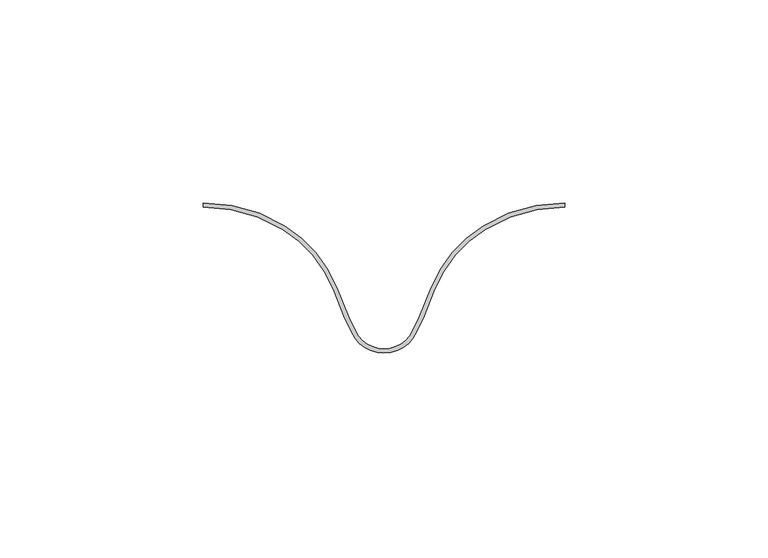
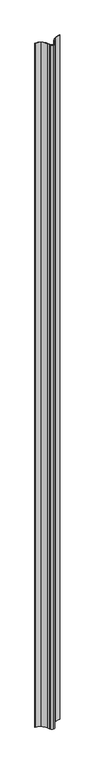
"""IFC4 building model written with IfcOpenShell, lengths in millimetres: plate geometry, Regolare Couverture 89  : Regolare Couverture 89 ."""

from ifc_helpers import new_model, si_unit, point, frame_2d, origin, origin_with_axes, place, context, project, spatial, polyline, circle_curve, trimmed, segment, composite_curve, outline, extrude, source, transform, mapped, element, save


def plate_1829d114(model_context):
    return source(origin(), model_context, "Body", "SweptSolid", [
        extrude(outline(composite_curve([segment(trimmed(circle_curve(frame_2d((-44.5257445, -1.5098563)), 37.4503244), [point((-24.9849944, 30.4383187))], [point((-44.5257445, 35.9404682))], True, "CARTESIAN"), True, "CONTINUOUS"), segment(polyline([(-44.5257445, 35.9404682), (-44.5257445, 36.9404682)]), True, "CONTINUOUS"), segment(trimmed(circle_curve(frame_2d((-44.5257445, -1.5098563)), 38.4503244), [point((-44.5257445, 36.9404682))], [point((-24.4632165, 31.2914001))], False, "CARTESIAN"), True, "CONTINUOUS"), segment(trimmed(circle_curve(frame_2d((-40.9600993, 4.3198001)), 31.6166783), [point((-24.4632165, 31.2914001))], [point((-11.6046151, 16.0616012))], False, "CARTESIAN"), True, "CONTINUOUS"), segment(polyline([(-11.6046151, 16.0616012), (-8.7353934, 8.8980757), (-7.0890396, 5.4633665)]), True, "CONTINUOUS"), segment(trimmed(circle_curve(frame_2d((0.0, 8.8613445)), 7.8613445), [point((-7.0890396, 5.4633665))], [point((0.0, 1.0))], True, "CARTESIAN"), True, "CONTINUOUS"), segment(trimmed(circle_curve(frame_2d((0.0, 8.8613445)), 7.8613445), [point((0.0, 1.0))], [point((7.0890396, 5.4633665))], True, "CARTESIAN"), True, "CONTINUOUS"), segment(polyline([(7.0890396, 5.4633665), (8.7353934, 8.8980757), (11.6046151, 16.0616012)]), True, "CONTINUOUS"), segment(trimmed(circle_curve(frame_2d((40.9600993, 4.3198001)), 31.6166783), [point((11.6046151, 16.0616012))], [point((24.4632165, 31.2914001))], False, "CARTESIAN"), True, "CONTINUOUS"), segment(trimmed(circle_curve(frame_2d((44.5257445, -1.5098563)), 38.4503244), [point((24.4632165, 31.2914001))], [point((44.5257445, 36.9404682))], False, "CARTESIAN"), True, "CONTINUOUS"), segment(polyline([(44.5257445, 36.9404682), (44.5257445, 35.9404682)]), True, "CONTINUOUS"), segment(trimmed(circle_curve(frame_2d((44.5257445, -1.5098563)), 37.4503244), [point((44.5257445, 35.9404682))], [point((24.9849944, 30.4383187))], True, "CARTESIAN"), True, "CONTINUOUS"), segment(trimmed(circle_curve(frame_2d((40.9600993, 4.3198001)), 30.6166783), [point((24.9849944, 30.4383187))], [point((12.5330095, 15.6900047))], True, "CARTESIAN"), True, "CONTINUOUS"), segment(polyline([(12.5330095, 15.6900047), (9.6514235, 8.4956098), (7.9907988, 5.0311277)]), True, "CONTINUOUS"), segment(trimmed(circle_curve(frame_2d((0.0, 8.8613445)), 8.8613445), [point((7.9907988, 5.0311277))], [point((0.0, 0.0))], False, "CARTESIAN"), True, "CONTINUOUS"), segment(trimmed(circle_curve(frame_2d((0.0, 8.8613445)), 8.8613445), [point((0.0, 0.0))], [point((-7.9907988, 5.0311277))], False, "CARTESIAN"), True, "CONTINUOUS"), segment(polyline([(-7.9907988, 5.0311277), (-9.6514235, 8.4956098), (-12.5330095, 15.6900047)]), True, "CONTINUOUS"), segment(trimmed(circle_curve(frame_2d((-40.9600993, 4.3198001)), 30.6166783), [point((-12.5330095, 15.6900047))], [point((-24.9849944, 30.4383187))], True, "CARTESIAN"), True, "CONTINUOUS")], self_intersect=False)), origin_with_axes(), (0.0, 0.0, 1.0), 2588.190451),
    ])


if __name__ == "__main__":
    model = new_model("IFC4")
    model_context = context("Model", 3, world=origin())
    ifc_project = project(units=[si_unit("LENGTHUNIT", "METRE", prefix="MILLI")], contexts=[model_context])
    site = spatial("IfcSite", under=ifc_project)
    building = spatial("IfcBuilding", under=site)
    placement = place(None, origin())
    plate_shape = plate_1829d114(model_context)
    element("IfcPlate", 1, ObjectType="Regolare Couverture 89  : Regolare Couverture 89 ", at=placement, inside=building, context=model_context, shape_type="MappedRepresentation", body=[
        mapped(plate_shape, transform((0.0, 0.0, 0.0), x_axis=(1.0, 0.0, 0.0), y_axis=(0.0, 1.0, 0.0), z_axis=(0.0, 0.0, 1.0))),
    ])
    save(model, "model.ifc")
